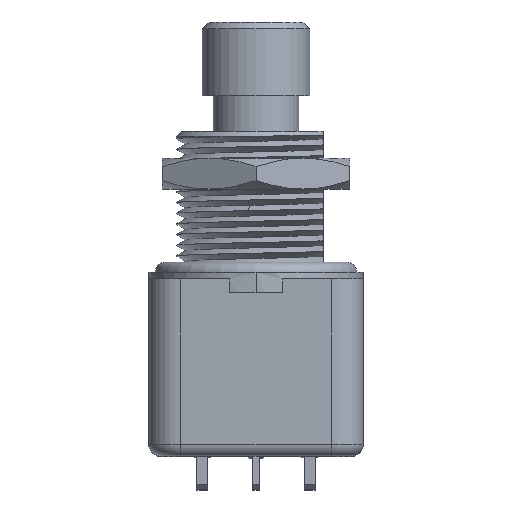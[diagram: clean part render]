
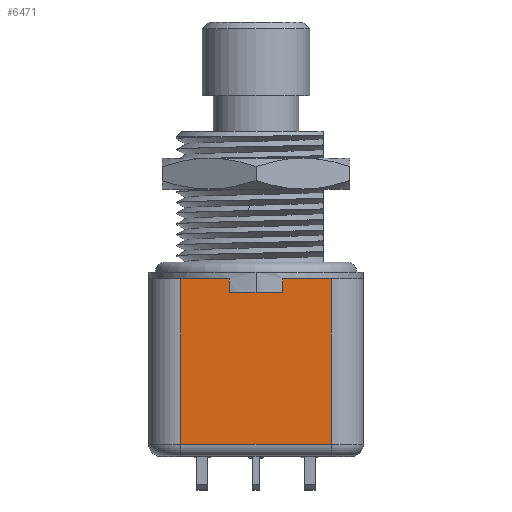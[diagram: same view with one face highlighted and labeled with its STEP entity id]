
A CAD part, top view. The second image highlights one B-rep face of the part: STEP entity #6471.
In plain terms, the highlighted planar face has unit normal (0, 0, 1).
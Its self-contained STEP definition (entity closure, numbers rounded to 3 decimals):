
#10=DIRECTION('',(-1.,0.,0.));
#11=VECTOR('',#10,3.6);
#12=CARTESIAN_POINT('',(4.6,12.,2.075));
#13=LINE('',#12,#11);
#113=DIRECTION('',(-1.,0.,0.));
#114=VECTOR('',#113,2.);
#115=CARTESIAN_POINT('',(8.6,11.,2.075));
#116=LINE('',#115,#114);
#117=DIRECTION('',(0.,-1.,0.));
#118=VECTOR('',#117,1.);
#119=CARTESIAN_POINT('',(8.6,12.,2.075));
#120=LINE('',#119,#118);
#121=DIRECTION('',(0.,-1.,0.));
#122=VECTOR('',#121,12.3);
#123=CARTESIAN_POINT('',(12.2,12.,2.075));
#124=LINE('',#123,#122);
#125=DIRECTION('',(-1.,0.,0.));
#126=VECTOR('',#125,11.2);
#127=CARTESIAN_POINT('',(12.2,-0.3,2.075));
#128=LINE('',#127,#126);
#129=DIRECTION('',(0.,1.,0.));
#130=VECTOR('',#129,12.3);
#131=CARTESIAN_POINT('',(1.,-0.3,2.075));
#132=LINE('',#131,#130);
#133=DIRECTION('',(0.,-1.,0.));
#134=VECTOR('',#133,1.);
#135=CARTESIAN_POINT('',(4.6,12.,2.075));
#136=LINE('',#135,#134);
#137=DIRECTION('',(-1.,0.,0.));
#138=VECTOR('',#137,2.);
#139=CARTESIAN_POINT('',(6.6,11.,2.075));
#140=LINE('',#139,#138);
#377=DIRECTION('',(1.,0.,0.));
#378=VECTOR('',#377,3.6);
#379=CARTESIAN_POINT('',(8.6,12.,2.075));
#380=LINE('',#379,#378);
#6093=CARTESIAN_POINT('',(12.2,-0.3,2.075));
#6094=VERTEX_POINT('',#6093);
#6097=CARTESIAN_POINT('',(1.,-0.3,2.075));
#6098=VERTEX_POINT('',#6097);
#6111=CARTESIAN_POINT('',(12.2,12.,2.075));
#6113=VERTEX_POINT('',#6111);
#6115=CARTESIAN_POINT('',(1.,12.,2.075));
#6117=VERTEX_POINT('',#6115);
#6127=CARTESIAN_POINT('',(8.6,12.,2.075));
#6128=CARTESIAN_POINT('',(8.6,11.,2.075));
#6129=VERTEX_POINT('',#6127);
#6130=VERTEX_POINT('',#6128);
#6131=CARTESIAN_POINT('',(4.6,12.,2.075));
#6132=CARTESIAN_POINT('',(4.6,11.,2.075));
#6133=VERTEX_POINT('',#6131);
#6134=VERTEX_POINT('',#6132);
#6170=CARTESIAN_POINT('',(6.6,11.,2.075));
#6172=VERTEX_POINT('',#6170);
#6448=CARTESIAN_POINT('',(14.6,11.,2.075));
#6449=DIRECTION('',(0.,0.,1.));
#6450=DIRECTION('',(-1.,0.,0.));
#6451=AXIS2_PLACEMENT_3D('',#6448,#6449,#6450);
#6452=PLANE('',#6451);
#6454=ORIENTED_EDGE('',*,*,#6453,.F.);
#6456=ORIENTED_EDGE('',*,*,#6455,.F.);
#6458=ORIENTED_EDGE('',*,*,#6457,.T.);
#6460=ORIENTED_EDGE('',*,*,#6459,.T.);
#6462=ORIENTED_EDGE('',*,*,#6461,.T.);
#6463=ORIENTED_EDGE('',*,*,#6441,.T.);
#6464=ORIENTED_EDGE('',*,*,#6341,.F.);
#6466=ORIENTED_EDGE('',*,*,#6465,.T.);
#6468=ORIENTED_EDGE('',*,*,#6467,.F.);
#6469=EDGE_LOOP('',(#6454,#6456,#6458,#6460,#6462,#6463,#6464,#6466,#6468));
#6470=FACE_OUTER_BOUND('',#6469,.F.);
#6471=ADVANCED_FACE('',(#6470),#6452,.T.);
#6341=EDGE_CURVE('',#6133,#6117,#13,.T.);
#6441=EDGE_CURVE('',#6098,#6117,#132,.T.);
#6453=EDGE_CURVE('',#6130,#6172,#116,.T.);
#6455=EDGE_CURVE('',#6129,#6130,#120,.T.);
#6457=EDGE_CURVE('',#6129,#6113,#380,.T.);
#6459=EDGE_CURVE('',#6113,#6094,#124,.T.);
#6461=EDGE_CURVE('',#6094,#6098,#128,.T.);
#6465=EDGE_CURVE('',#6133,#6134,#136,.T.);
#6467=EDGE_CURVE('',#6172,#6134,#140,.T.);
